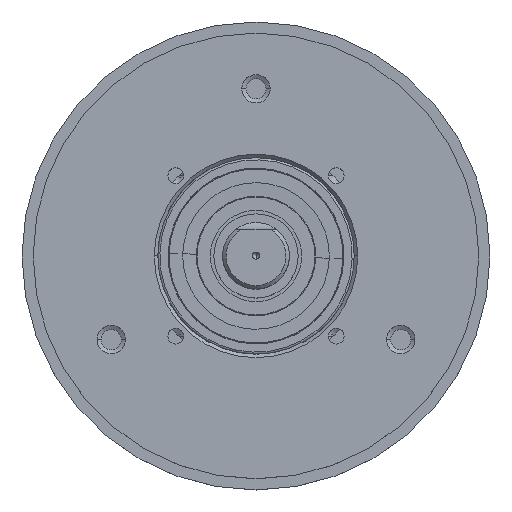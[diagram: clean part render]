
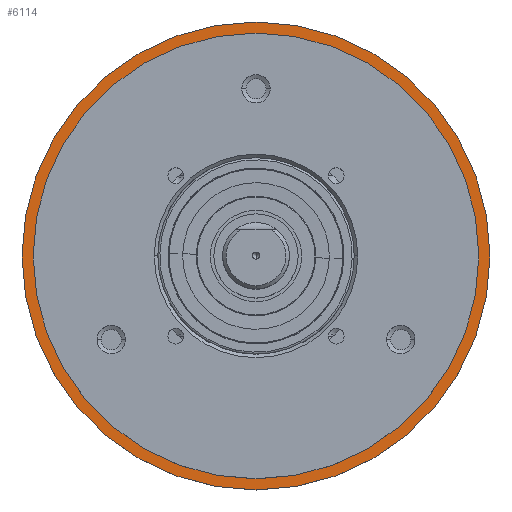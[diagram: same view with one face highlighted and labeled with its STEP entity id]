
A CAD part, top view. The second image highlights one B-rep face of the part: STEP entity #6114.
In plain terms, the highlighted planar face has unit normal (0, 0, 1).
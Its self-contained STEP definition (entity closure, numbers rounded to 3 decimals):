
#87 = CARTESIAN_POINT ( 'NONE',  ( 0., 31.75, 10.795 ) ) ;
#435 = VERTEX_POINT ( 'NONE', #523 ) ;
#441 = CIRCLE ( 'NONE', #1238, 33.337 ) ;
#523 = CARTESIAN_POINT ( 'NONE',  ( -31.75, 0., 10.795 ) ) ;
#567 = EDGE_CURVE ( 'NONE', #3952, #1073, #652, .T. ) ;
#639 = PLANE ( 'NONE',  #1276 ) ;
#652 = CIRCLE ( 'NONE', #6199, 33.337 ) ;
#676 = DIRECTION ( 'NONE',  ( 1., 0., 0. ) ) ;
#884 = AXIS2_PLACEMENT_3D ( 'NONE', #1037, #5008, #1599 ) ;
#1037 = CARTESIAN_POINT ( 'NONE',  ( 0., 0., 10.795 ) ) ;
#1073 = VERTEX_POINT ( 'NONE', #3152 ) ;
#1238 = AXIS2_PLACEMENT_3D ( 'NONE', #3054, #5137, #4705 ) ;
#1276 = AXIS2_PLACEMENT_3D ( 'NONE', #87, #4046, #676 ) ;
#1550 = FACE_BOUND ( 'NONE', #5257, .T. ) ;
#1599 = DIRECTION ( 'NONE',  ( -1., 0., 0. ) ) ;
#1924 = CARTESIAN_POINT ( 'NONE',  ( 31.75, 0., 10.795 ) ) ;
#2244 = CIRCLE ( 'NONE', #2688, 31.75 ) ;
#2259 = DIRECTION ( 'NONE',  ( -1., 0., 0. ) ) ;
#2688 = AXIS2_PLACEMENT_3D ( 'NONE', #6561, #3095, #7146 ) ;
#2713 = CIRCLE ( 'NONE', #884, 31.75 ) ;
#2856 = CARTESIAN_POINT ( 'NONE',  ( 0., 0., 10.795 ) ) ;
#3054 = CARTESIAN_POINT ( 'NONE',  ( 0., 0., 10.795 ) ) ;
#3095 = DIRECTION ( 'NONE',  ( 0., 0., -1. ) ) ;
#3152 = CARTESIAN_POINT ( 'NONE',  ( -33.337, 0., 10.795 ) ) ;
#3168 = VERTEX_POINT ( 'NONE', #1924 ) ;
#3221 = FACE_OUTER_BOUND ( 'NONE', #6349, .T. ) ;
#3952 = VERTEX_POINT ( 'NONE', #6368 ) ;
#4046 = DIRECTION ( 'NONE',  ( 0., 0., 1. ) ) ;
#4066 = ORIENTED_EDGE ( 'NONE', *, *, #567, .F. ) ;
#4292 = EDGE_CURVE ( 'NONE', #1073, #3952, #441, .T. ) ;
#4705 = DIRECTION ( 'NONE',  ( -1., 0., 0. ) ) ;
#4731 = EDGE_CURVE ( 'NONE', #435, #3168, #2713, .T. ) ;
#5008 = DIRECTION ( 'NONE',  ( 0., 0., -1. ) ) ;
#5137 = DIRECTION ( 'NONE',  ( 0., 0., -1. ) ) ;
#5257 = EDGE_LOOP ( 'NONE', ( #7158, #5639 ) ) ;
#5461 = EDGE_CURVE ( 'NONE', #3168, #435, #2244, .T. ) ;
#5639 = ORIENTED_EDGE ( 'NONE', *, *, #5461, .T. ) ;
#5701 = ORIENTED_EDGE ( 'NONE', *, *, #4292, .F. ) ;
#6114 = ADVANCED_FACE ( 'NONE', ( #1550, #3221 ), #639, .T. ) ;
#6199 = AXIS2_PLACEMENT_3D ( 'NONE', #2856, #7242, #2259 ) ;
#6349 = EDGE_LOOP ( 'NONE', ( #5701, #4066 ) ) ;
#6368 = CARTESIAN_POINT ( 'NONE',  ( 33.337, 0., 10.795 ) ) ;
#6561 = CARTESIAN_POINT ( 'NONE',  ( 0., 0., 10.795 ) ) ;
#7146 = DIRECTION ( 'NONE',  ( -1., 0., 0. ) ) ;
#7158 = ORIENTED_EDGE ( 'NONE', *, *, #4731, .T. ) ;
#7242 = DIRECTION ( 'NONE',  ( 0., 0., -1. ) ) ;
